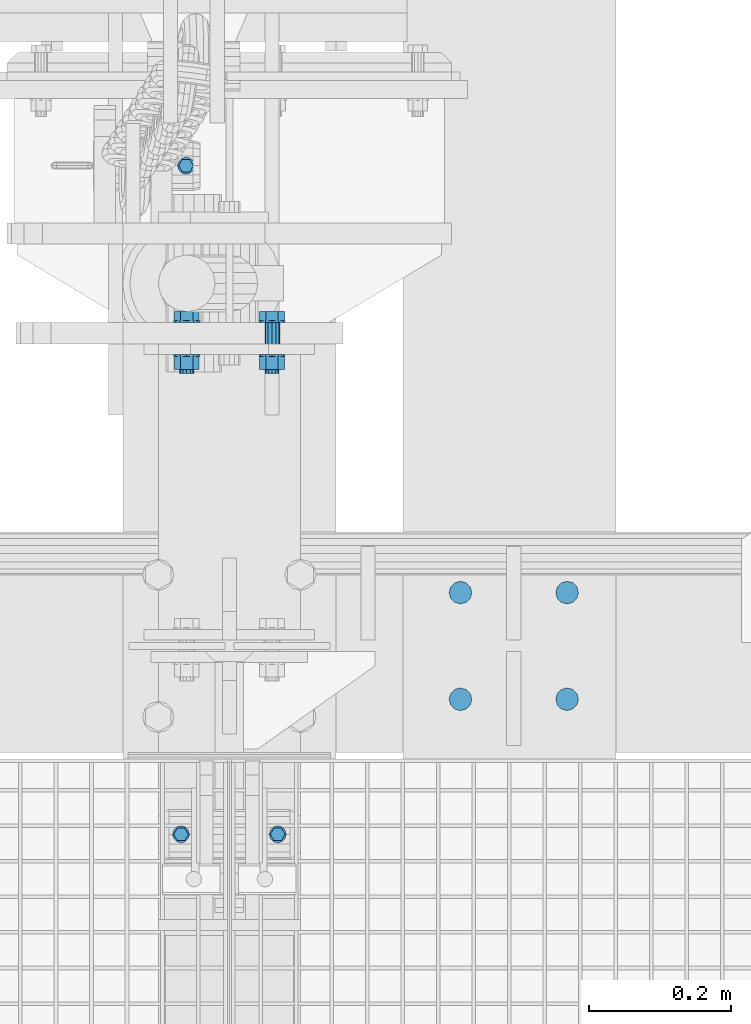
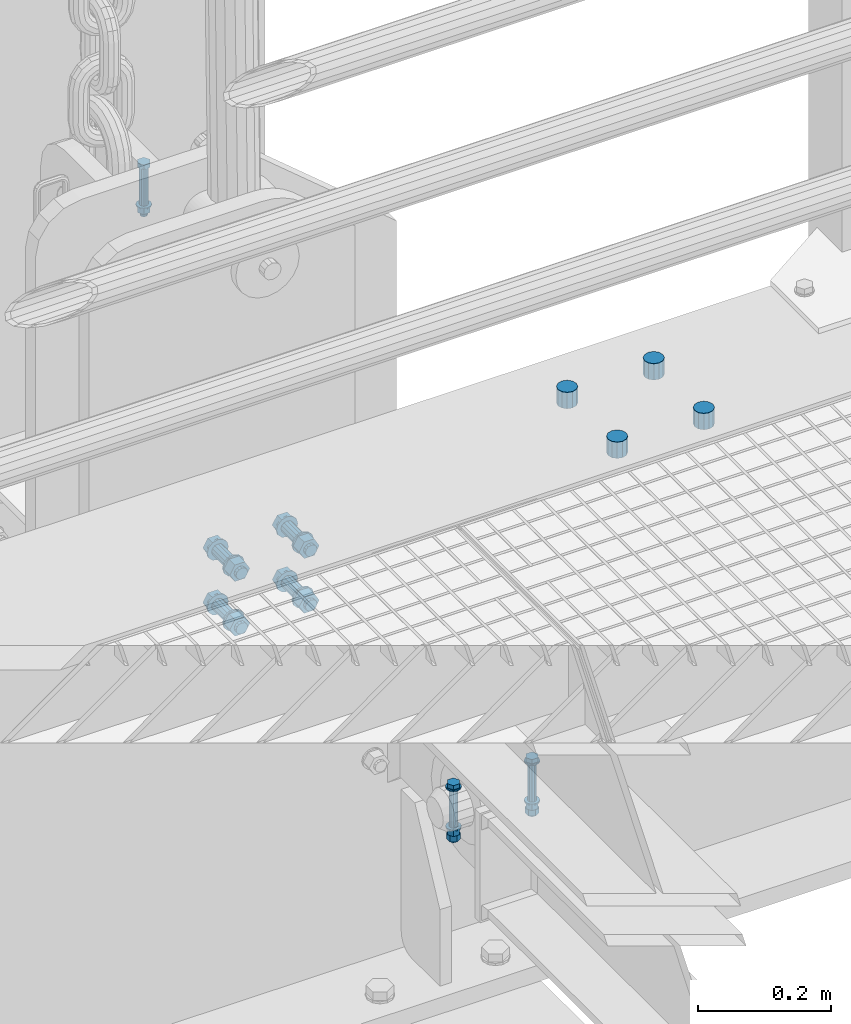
# One storey, part 46 of 1530: 4 mechanical fasteners.
"""IFC2X3 building model written with IfcOpenShell, lengths in millimetres."""

from ifc_helpers import new_model, si_unit, frame, origin_with_axes, place, context, subcontext, project, spatial, faceted_brep, source, transform, mapped, material, type_object, element, save


model = new_model("IFC2X3")

# Units and contexts
model_context = context("Model", 3, precision=1e-05, world=origin_with_axes())
body_context = subcontext(model_context, "Body", "Model", "MODEL_VIEW")
ifc_project = project(units=[si_unit("LENGTHUNIT", "METRE", prefix="MILLI"), si_unit("AREAUNIT", "SQUARE_METRE"), si_unit("VOLUMEUNIT", "CUBIC_METRE"), si_unit("MASSUNIT", "GRAM", prefix="KILO"), si_unit("TIMEUNIT", "SECOND"), si_unit("PLANEANGLEUNIT", "RADIAN"), si_unit("SOLIDANGLEUNIT", "STERADIAN"), si_unit("THERMODYNAMICTEMPERATUREUNIT", "DEGREE_CELSIUS"), si_unit("LUMINOUSINTENSITYUNIT", "LUMEN")], contexts=[model_context])

# Site, building, storey
site_placement = place(None, origin_with_axes())
site = spatial("IfcSite", under=ifc_project, at=site_placement, Name="Brattvåg", CompositionType="ELEMENT")
building_placement = place(site_placement, origin_with_axes())
building = spatial("IfcBuilding", under=site, at=building_placement, Name="Undefined", CompositionType="ELEMENT")
storey_placement = place(building_placement, origin_with_axes())
storey = spatial("IfcBuildingStorey", under=building, at=storey_placement, Name="Undefined", CompositionType="ELEMENT", Elevation=0.0)

# Mechanical fasteners
ifc_material = material(Name="8")
mechanical_fastener_type = type_object("IfcMechanicalFastenerType", Name="Bolt assembly")
shared_shape_1 = source(origin_with_axes(), body_context, "Body", "Brep", [
    faceted_brep([(10.3923048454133, -9.99999999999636, 0.0), (5.19615242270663, -9.99999999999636, 9.0), (-5.19615242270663, -9.99999999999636, 9.0), (-10.3923048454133, -9.99999999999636, 1.27269028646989e-15), (-5.19615242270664, -9.99999999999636, -9.0), (5.19615242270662, -9.99999999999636, -9.0), (5.19615242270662, -2.49999999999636, -9.0), (-5.19615242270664, -2.49999999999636, -9.0), (-10.3923048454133, -2.49999999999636, 1.27269028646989e-15), (-5.19615242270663, -2.49999999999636, 9.0), (5.19615242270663, -2.49999999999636, 9.0), (10.3923048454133, -2.49999999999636, 0.0), (6.0, -2.49999999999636, 0.0), (5.19615242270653, -2.49999999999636, 3.00000000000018), (2.99999999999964, -2.49999999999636, 5.19615242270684), (-6.21801588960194e-13, -2.49999999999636, 6.0), (-3.00000000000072, -2.49999999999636, 5.19615242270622), (-5.19615242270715, -2.49999999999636, 2.9999999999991), (-6.0, -2.49999999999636, -1.24360317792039e-12), (-5.19615242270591, -2.49999999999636, -3.00000000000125), (-2.99999999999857, -2.49999999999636, -5.19615242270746), (1.85874342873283e-12, -2.49999999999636, -6.0), (3.00000000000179, -2.49999999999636, -5.1961524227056), (5.19615242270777, -2.49999999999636, -2.99999999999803), (5.19615242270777, 97.4999999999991, -2.99999999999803), (3.00000000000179, 97.4999999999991, -5.1961524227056), (1.85874342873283e-12, 97.4999999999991, -6.0), (-2.99999999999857, 97.4999999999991, -5.19615242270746), (-5.19615242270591, 97.4999999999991, -3.00000000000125), (-6.0, 97.4999999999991, -1.24360317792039e-12), (-5.19615242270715, 97.4999999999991, 2.9999999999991), (-3.00000000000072, 97.4999999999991, 5.19615242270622), (-6.21801588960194e-13, 97.4999999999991, 6.0), (2.99999999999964, 97.4999999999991, 5.19615242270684), (5.19615242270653, 97.4999999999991, 3.00000000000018), (6.0, 97.4999999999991, 0.0), (12.0, -2.49999999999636, 0.0), (10.3923048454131, -2.49999999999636, 6.00000000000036), (5.99999999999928, -2.49999999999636, 10.3923048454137), (-1.24360317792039e-12, -2.49999999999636, 12.0), (-6.00000000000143, -2.49999999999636, 10.3923048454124), (-10.3923048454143, -2.49999999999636, 5.99999999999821), (-12.0, -2.49999999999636, -2.48720635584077e-12), (-10.3923048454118, -2.49999999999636, -6.00000000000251), (-5.99999999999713, -2.49999999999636, -10.3923048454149), (3.71748685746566e-12, -2.49999999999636, -12.0), (6.00000000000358, -2.49999999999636, -10.3923048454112), (10.3923048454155, -2.49999999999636, -5.99999999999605), (10.3923048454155, 3.63797880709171e-12, -5.99999999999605), (6.00000000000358, 3.63797880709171e-12, -10.3923048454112), (3.71748685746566e-12, 3.63797880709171e-12, -12.0), (-5.99999999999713, 3.63797880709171e-12, -10.3923048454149), (-10.3923048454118, 3.63797880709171e-12, -6.00000000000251), (-12.0, 3.63797880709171e-12, -2.48720635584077e-12), (-10.3923048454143, 3.63797880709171e-12, 5.99999999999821), (-6.00000000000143, 3.63797880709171e-12, 10.3923048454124), (-1.24360317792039e-12, 3.63797880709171e-12, 12.0), (5.99999999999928, 3.63797880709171e-12, 10.3923048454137), (10.3923048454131, 3.63797880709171e-12, 6.00000000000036), (12.0, 3.63797880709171e-12, 0.0), (12.0, 69.9999999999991, 0.0), (10.3923048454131, 69.9999999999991, 6.00000000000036), (5.99999999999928, 69.9999999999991, 10.3923048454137), (-1.24360317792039e-12, 69.9999999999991, 12.0), (-6.00000000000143, 69.9999999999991, 10.3923048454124), (-10.3923048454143, 69.9999999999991, 5.99999999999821), (-12.0, 69.9999999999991, -2.48720635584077e-12), (-10.3923048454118, 69.9999999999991, -6.00000000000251), (-5.99999999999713, 69.9999999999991, -10.3923048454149), (3.71748685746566e-12, 69.9999999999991, -12.0), (6.00000000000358, 69.9999999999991, -10.3923048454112), (10.3923048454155, 69.9999999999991, -5.99999999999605), (10.3923048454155, 72.4999999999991, -5.99999999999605), (6.00000000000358, 72.4999999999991, -10.3923048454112), (3.71748685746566e-12, 72.4999999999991, -12.0), (-5.99999999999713, 72.4999999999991, -10.3923048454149), (-10.3923048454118, 72.4999999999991, -6.00000000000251), (-12.0, 72.4999999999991, -2.48720635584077e-12), (-10.3923048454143, 72.4999999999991, 5.99999999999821), (-6.00000000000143, 72.4999999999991, 10.3923048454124), (-1.24360317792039e-12, 72.4999999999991, 12.0), (5.99999999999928, 72.4999999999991, 10.3923048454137), (10.3923048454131, 72.4999999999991, 6.00000000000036), (12.0, 72.4999999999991, 0.0), (10.3923048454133, 72.4999999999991, 0.0), (5.19615242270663, 72.4999999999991, 9.0), (-5.19615242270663, 72.4999999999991, 9.0), (-10.3923048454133, 72.4999999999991, 1.27269028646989e-15), (-5.19615242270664, 72.4999999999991, -9.0), (5.19615242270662, 72.4999999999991, -9.0), (5.19615242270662, 83.300000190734, -9.0), (-5.19615242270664, 83.300000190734, -9.0), (-10.3923048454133, 83.300000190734, 1.27269028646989e-15), (-5.19615242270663, 83.300000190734, 9.0), (5.19615242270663, 83.300000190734, 9.0), (10.3923048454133, 83.300000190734, 0.0), (9.0, 83.300000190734, 5.19615242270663), (6.36345143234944e-16, 83.300000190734, 10.3923048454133), (-9.0, 83.300000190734, 5.19615242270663), (-9.0, 83.300000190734, -5.19615242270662), (-1.11392563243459e-14, 83.300000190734, -10.3923048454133), (8.99999999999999, 83.300000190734, -5.19615242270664), (8.99999999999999, 94.1000003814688, -5.19615242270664), (-1.11392563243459e-14, 94.1000003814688, -10.3923048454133), (-9.0, 94.1000003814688, -5.19615242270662), (-9.0, 94.1000003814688, 5.19615242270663), (6.36345143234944e-16, 94.1000003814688, 10.3923048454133), (9.0, 94.1000003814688, 5.19615242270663)], [[[0, 1, 2, 3, 4, 5]], [[6, 7, 8, 9, 10, 11]], [[0, 11, 10, 1]], [[1, 10, 9, 2]], [[2, 9, 8, 3]], [[3, 8, 7, 4]], [[4, 7, 6, 5]], [[5, 6, 11, 0]], [[12, 13, 14, 15, 16, 17, 18, 19, 20, 21, 22, 23]], [[24, 25, 26, 27, 28, 29, 30, 31, 32, 33, 34, 35]], [[12, 35, 34, 13]], [[13, 34, 33, 14]], [[14, 33, 32, 15]], [[15, 32, 31, 16]], [[16, 31, 30, 17]], [[17, 30, 29, 18]], [[18, 29, 28, 19]], [[19, 28, 27, 20]], [[20, 27, 26, 21]], [[21, 26, 25, 22]], [[22, 25, 24, 23]], [[23, 24, 35, 12]], [[36, 37, 38, 39, 40, 41, 42, 43, 44, 45, 46, 47]], [[48, 49, 50, 51, 52, 53, 54, 55, 56, 57, 58, 59]], [[36, 59, 58, 37]], [[37, 58, 57, 38]], [[38, 57, 56, 39]], [[39, 56, 55, 40]], [[40, 55, 54, 41]], [[41, 54, 53, 42]], [[42, 53, 52, 43]], [[43, 52, 51, 44]], [[44, 51, 50, 45]], [[45, 50, 49, 46]], [[46, 49, 48, 47]], [[47, 48, 59, 36]], [[60, 61, 62, 63, 64, 65, 66, 67, 68, 69, 70, 71]], [[72, 73, 74, 75, 76, 77, 78, 79, 80, 81, 82, 83]], [[60, 83, 82, 61]], [[61, 82, 81, 62]], [[62, 81, 80, 63]], [[63, 80, 79, 64]], [[64, 79, 78, 65]], [[65, 78, 77, 66]], [[66, 77, 76, 67]], [[67, 76, 75, 68]], [[68, 75, 74, 69]], [[69, 74, 73, 70]], [[70, 73, 72, 71]], [[71, 72, 83, 60]], [[84, 85, 86, 87, 88, 89]], [[90, 91, 92, 93, 94, 95]], [[84, 95, 94, 85]], [[85, 94, 93, 86]], [[86, 93, 92, 87]], [[87, 92, 91, 88]], [[88, 91, 90, 89]], [[89, 90, 95, 84]], [[96, 97, 98, 99, 100, 101]], [[102, 103, 104, 105, 106, 107]], [[96, 107, 106, 97]], [[97, 106, 105, 98]], [[98, 105, 104, 99]], [[99, 104, 103, 100]], [[100, 103, 102, 101]], [[101, 102, 107, 96]]]),
    faceted_brep([(7.0, -9.09494701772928e-13, 0.0), (6.06217782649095, -9.09494701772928e-13, 3.50000000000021), (3.49999999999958, -9.09494701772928e-13, 6.06217782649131), (-7.25435187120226e-13, -9.09494701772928e-13, 7.0), (-3.50000000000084, -9.09494701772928e-13, 6.06217782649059), (-6.06217782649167, -9.09494701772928e-13, 3.49999999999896), (-7.0, -9.09494701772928e-13, -1.45087037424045e-12), (-6.06217782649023, -9.09494701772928e-13, -3.50000000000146), (-3.49999999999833, -9.09494701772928e-13, -6.06217782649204), (2.1685340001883e-12, -9.09494701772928e-13, -7.0), (3.50000000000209, -9.09494701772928e-13, -6.06217782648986), (6.0621778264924, -9.09494701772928e-13, -3.4999999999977), (6.0621778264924, 70.0999999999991, -3.4999999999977), (3.50000000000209, 70.0999999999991, -6.06217782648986), (2.1685340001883e-12, 70.0999999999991, -7.0), (-3.49999999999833, 70.0999999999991, -6.06217782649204), (-6.06217782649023, 70.0999999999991, -3.50000000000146), (-7.0, 70.0999999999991, -1.45087037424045e-12), (-6.06217782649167, 70.0999999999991, 3.49999999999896), (-3.50000000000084, 70.0999999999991, 6.06217782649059), (-7.25435187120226e-13, 70.0999999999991, 7.0), (3.49999999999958, 70.0999999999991, 6.06217782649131), (6.06217782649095, 70.0999999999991, 3.50000000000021), (7.0, 70.0999999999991, 0.0)], [[[0, 1, 2, 3, 4, 5, 6, 7, 8, 9, 10, 11]], [[12, 13, 14, 15, 16, 17, 18, 19, 20, 21, 22, 23]], [[0, 23, 22, 1]], [[1, 22, 21, 2]], [[2, 21, 20, 3]], [[3, 20, 19, 4]], [[4, 19, 18, 5]], [[5, 18, 17, 6]], [[6, 17, 16, 7]], [[7, 16, 15, 8]], [[8, 15, 14, 9]], [[9, 14, 13, 10]], [[10, 13, 12, 11]], [[11, 12, 23, 0]]]),
])
mechanical_fastener_1_placement = place(storey_placement, frame((12181.9533857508, 8735.00000037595, -390.000000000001), z_axis=(0.0, 1.0, 0.0), x_axis=(1.0, 0.0, 0.0)))
element("IfcMechanicalFastener", 1, at=mechanical_fastener_1_placement, inside=storey, type_object=mechanical_fastener_type, material=ifc_material, Name="Bolt assembly", NominalDiameter=12.0, NominalLength=100.0, context=body_context, shape_type="MappedRepresentation", body=[
    mapped(shared_shape_1, transform((0.0, 0.0, 0.0))),
    mapped(shared_shape_1, transform((136.0, 0.0, 0.0))),
])
shared_shape_2 = source(origin_with_axes(), body_context, "Body", "Brep", [
    faceted_brep([(16.0, 0.0, 0.0), (13.8564064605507, 0.0, 8.00000000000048), (7.99999999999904, 0.0, 13.8564064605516), (-1.65813757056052e-12, 0.0, 16.0), (-8.00000000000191, 0.0, 13.8564064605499), (-13.8564064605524, 0.0, 7.99999999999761), (-16.0, 0.0, -3.31627514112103e-12), (-13.8564064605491, 0.0, -8.00000000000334), (-7.99999999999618, 0.0, -13.8564064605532), (4.95664914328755e-12, 0.0, -16.0), (8.00000000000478, 0.0, -13.8564064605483), (13.8564064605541, 0.0, -7.99999999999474), (13.8564064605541, 30.1, -7.99999999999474), (8.00000000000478, 30.1, -13.8564064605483), (4.95664914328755e-12, 30.1, -16.0), (-7.99999999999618, 30.1, -13.8564064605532), (-13.8564064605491, 30.1, -8.00000000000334), (-16.0, 30.1, -3.31627514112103e-12), (-13.8564064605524, 30.1, 7.99999999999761), (-8.00000000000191, 30.1, 13.8564064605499), (-1.65813757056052e-12, 30.1, 16.0), (7.99999999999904, 30.1, 13.8564064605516), (13.8564064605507, 30.1, 8.00000000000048), (16.0, 30.1, 0.0)], [[[0, 1, 2, 3, 4, 5, 6, 7, 8, 9, 10, 11]], [[12, 13, 14, 15, 16, 17, 18, 19, 20, 21, 22, 23]], [[0, 23, 22, 1]], [[1, 22, 21, 2]], [[2, 21, 20, 3]], [[3, 20, 19, 4]], [[4, 19, 18, 5]], [[5, 18, 17, 6]], [[6, 17, 16, 7]], [[7, 16, 15, 8]], [[8, 15, 14, 9]], [[9, 14, 13, 10]], [[10, 13, 12, 11]], [[11, 12, 23, 0]]]),
])
mechanical_fastener_2_placement = place(storey_placement, frame((12725.0, 9000.0, 0.0), z_axis=(0.0, -1.0, 0.0), x_axis=(-1.0, 1.99999855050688e-09, 0.0)))
element("IfcMechanicalFastener", 2, at=mechanical_fastener_2_placement, inside=storey, type_object=mechanical_fastener_type, material=ifc_material, Name="Bolt assembly", NominalDiameter=30.0, NominalLength=30.0, context=body_context, shape_type="MappedRepresentation", body=[
    mapped(shared_shape_2, transform((0.0, 0.0, -75.0))),
    mapped(shared_shape_2, transform((150.0, 0.0, -75.0))),
    mapped(shared_shape_2, transform((0.0, 0.0, 75.0))),
    mapped(shared_shape_2, transform((150.0, 0.0, 75.0))),
])
shared_shape_3 = source(origin_with_axes(), body_context, "Body", "Brep", [
    faceted_brep([(10.3923048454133, -7.92069730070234, 0.0), (5.19615242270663, -7.92069730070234, 9.0), (-5.19615242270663, -7.92069730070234, 9.0), (-10.3923048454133, -7.92069730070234, 1.27269028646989e-15), (-5.19615242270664, -7.92069730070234, -9.0), (5.19615242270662, -7.92069730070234, -9.0), (5.19615242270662, -0.000697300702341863, -9.0), (-5.19615242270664, -0.000697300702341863, -9.0), (-10.3923048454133, -0.000697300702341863, 1.27269028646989e-15), (-5.19615242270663, -0.000697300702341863, 9.0), (5.19615242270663, -0.000697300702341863, 9.0), (10.3923048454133, -0.000697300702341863, 0.0), (6.0, -0.000697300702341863, 0.0), (5.19615242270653, -0.000697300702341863, 3.00000000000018), (2.99999999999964, -0.000697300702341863, 5.19615242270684), (-6.21801588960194e-13, -0.000697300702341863, 6.0), (-3.00000000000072, -0.000697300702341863, 5.19615242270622), (-5.19615242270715, -0.000697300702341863, 2.9999999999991), (-6.0, -0.000697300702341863, -1.24360317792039e-12), (-5.19615242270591, -0.000697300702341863, -3.00000000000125), (-2.99999999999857, -0.000697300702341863, -5.19615242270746), (1.85874342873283e-12, -0.000697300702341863, -6.0), (3.00000000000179, -0.000697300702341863, -5.1961524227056), (5.19615242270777, -0.000697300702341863, -2.99999999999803), (5.19615242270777, 89.9993026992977, -2.99999999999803), (3.00000000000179, 89.9993026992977, -5.1961524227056), (1.85874342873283e-12, 89.9993026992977, -6.0), (-2.99999999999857, 89.9993026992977, -5.19615242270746), (-5.19615242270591, 89.9993026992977, -3.00000000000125), (-6.0, 89.9993026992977, -1.24360317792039e-12), (-5.19615242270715, 89.9993026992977, 2.9999999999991), (-3.00000000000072, 89.9993026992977, 5.19615242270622), (-6.21801588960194e-13, 89.9993026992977, 6.0), (2.99999999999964, 89.9993026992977, 5.19615242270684), (5.19615242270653, 89.9993026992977, 3.00000000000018), (6.0, 89.9993026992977, 0.0), (12.0, 69.9990430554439, 0.0), (10.3923048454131, 69.9990430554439, 6.00000000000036), (5.99999999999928, 69.9990430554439, 10.3923048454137), (-1.24360317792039e-12, 69.9990430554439, 12.0), (-6.00000000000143, 69.9990430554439, 10.3923048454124), (-10.3923048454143, 69.9990430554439, 5.99999999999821), (-12.0, 69.9990430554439, -2.48720635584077e-12), (-10.3923048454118, 69.9990430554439, -6.00000000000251), (-5.99999999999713, 69.9990430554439, -10.3923048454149), (3.71748685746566e-12, 69.9990430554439, -12.0), (6.00000000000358, 69.9990430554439, -10.3923048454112), (10.3923048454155, 69.9990430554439, -5.99999999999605), (10.3923048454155, 72.4990430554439, -5.99999999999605), (6.00000000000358, 72.4990430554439, -10.3923048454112), (3.71748685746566e-12, 72.4990430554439, -12.0), (-5.99999999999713, 72.4990430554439, -10.3923048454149), (-10.3923048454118, 72.4990430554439, -6.00000000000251), (-12.0, 72.4990430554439, -2.48720635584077e-12), (-10.3923048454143, 72.4990430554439, 5.99999999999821), (-6.00000000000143, 72.4990430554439, 10.3923048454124), (-1.24360317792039e-12, 72.4990430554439, 12.0), (5.99999999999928, 72.4990430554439, 10.3923048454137), (10.3923048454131, 72.4990430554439, 6.00000000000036), (12.0, 72.4990430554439, 0.0), (10.9696551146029, 72.4990430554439, 0.0), (5.48482755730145, 72.4990430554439, 9.5), (-5.48482755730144, 72.4990430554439, 9.5), (-10.9696551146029, 72.4990430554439, 1.34339530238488e-15), (-5.48482755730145, 72.4990430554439, -9.5), (5.48482755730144, 72.4990430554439, -9.5), (5.48482755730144, 82.4990430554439, -9.5), (-5.48482755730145, 82.4990430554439, -9.5), (-10.9696551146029, 82.4990430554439, 1.34339530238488e-15), (-5.48482755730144, 82.4990430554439, 9.5), (5.48482755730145, 82.4990430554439, 9.5), (10.9696551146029, 82.4990430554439, 0.0)], [[[0, 1, 2, 3, 4, 5]], [[6, 7, 8, 9, 10, 11]], [[0, 11, 10, 1]], [[1, 10, 9, 2]], [[2, 9, 8, 3]], [[3, 8, 7, 4]], [[4, 7, 6, 5]], [[5, 6, 11, 0]], [[12, 13, 14, 15, 16, 17, 18, 19, 20, 21, 22, 23]], [[24, 25, 26, 27, 28, 29, 30, 31, 32, 33, 34, 35]], [[12, 35, 34, 13]], [[13, 34, 33, 14]], [[14, 33, 32, 15]], [[15, 32, 31, 16]], [[16, 31, 30, 17]], [[17, 30, 29, 18]], [[18, 29, 28, 19]], [[19, 28, 27, 20]], [[20, 27, 26, 21]], [[21, 26, 25, 22]], [[22, 25, 24, 23]], [[23, 24, 35, 12]], [[36, 37, 38, 39, 40, 41, 42, 43, 44, 45, 46, 47]], [[48, 49, 50, 51, 52, 53, 54, 55, 56, 57, 58, 59]], [[36, 59, 58, 37]], [[37, 58, 57, 38]], [[38, 57, 56, 39]], [[39, 56, 55, 40]], [[40, 55, 54, 41]], [[41, 54, 53, 42]], [[42, 53, 52, 43]], [[43, 52, 51, 44]], [[44, 51, 50, 45]], [[45, 50, 49, 46]], [[46, 49, 48, 47]], [[47, 48, 59, 36]], [[60, 61, 62, 63, 64, 65]], [[66, 67, 68, 69, 70, 71]], [[60, 71, 70, 61]], [[61, 70, 69, 62]], [[62, 69, 68, 63]], [[63, 68, 67, 64]], [[64, 67, 66, 65]], [[65, 66, 71, 60]]]),
    faceted_brep([(7.0, -0.000697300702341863, 0.0), (6.06217782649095, -0.000697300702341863, 3.50000000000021), (3.49999999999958, -0.000697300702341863, 6.06217782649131), (-7.25435187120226e-13, -0.000697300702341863, 7.0), (-3.50000000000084, -0.000697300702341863, 6.06217782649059), (-6.06217782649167, -0.000697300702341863, 3.49999999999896), (-7.0, -0.000697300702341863, -1.45087037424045e-12), (-6.06217782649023, -0.000697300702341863, -3.50000000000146), (-3.49999999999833, -0.000697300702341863, -6.06217782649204), (2.1685340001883e-12, -0.000697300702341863, -7.0), (3.50000000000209, -0.000697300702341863, -6.06217782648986), (6.0621778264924, -0.000697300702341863, -3.4999999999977), (6.0621778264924, 70.0990430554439, -3.4999999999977), (3.50000000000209, 70.0990430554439, -6.06217782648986), (2.1685340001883e-12, 70.0990430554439, -7.0), (-3.49999999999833, 70.0990430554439, -6.06217782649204), (-6.06217782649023, 70.0990430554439, -3.50000000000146), (-7.0, 70.0990430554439, -1.45087037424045e-12), (-6.06217782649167, 70.0990430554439, 3.49999999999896), (-3.50000000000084, 70.0990430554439, 6.06217782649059), (-7.25435187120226e-13, 70.0990430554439, 7.0), (3.49999999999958, 70.0990430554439, 6.06217782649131), (6.06217782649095, 70.0990430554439, 3.50000000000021), (7.0, 70.0990430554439, 0.0)], [[[0, 1, 2, 3, 4, 5, 6, 7, 8, 9, 10, 11]], [[12, 13, 14, 15, 16, 17, 18, 19, 20, 21, 22, 23]], [[0, 23, 22, 1]], [[1, 22, 21, 2]], [[2, 21, 20, 3]], [[3, 20, 19, 4]], [[4, 19, 18, 5]], [[5, 18, 17, 6]], [[6, 17, 16, 7]], [[7, 16, 15, 8]], [[8, 15, 14, 9]], [[9, 14, 13, 10]], [[10, 13, 12, 11]], [[11, 12, 23, 0]]]),
])
mechanical_fastener_3_placement = place(storey_placement, frame((12188.9950409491, 9675.49110680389, 174.9991765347), z_axis=(6.53460002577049e-05, -0.99999999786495, 2.8421709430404e-17), x_axis=(-0.999999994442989, -6.53460000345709e-05, -8.27280000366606e-05)))
element("IfcMechanicalFastener", 3, at=mechanical_fastener_3_placement, inside=storey, type_object=mechanical_fastener_type, material=ifc_material, Name="Bolt assembly", NominalDiameter=12.0, NominalLength=90.0, context=body_context, shape_type="MappedRepresentation", body=[
    mapped(shared_shape_3, transform((0.0, 0.0, 0.0))),
])
shared_shape_4 = source(origin_with_axes(), body_context, "Body", "Brep", [
    faceted_brep([(17.3205080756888, -45.4981880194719, 0.0), (8.66025403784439, -45.4981880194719, 15.0), (-8.66025403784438, -45.4981880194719, 15.0), (-17.3205080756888, -45.4981880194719, 2.12115047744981e-15), (-8.66025403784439, -45.4981880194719, -15.0), (8.66025403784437, -45.4981880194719, -15.0), (8.66025403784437, -32.9981880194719, -15.0), (-8.66025403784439, -32.9981880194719, -15.0), (-17.3205080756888, -32.9981880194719, 2.12115047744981e-15), (-8.66025403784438, -32.9981880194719, 15.0), (8.66025403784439, -32.9981880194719, 15.0), (17.3205080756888, -32.9981880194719, 0.0), (10.0, -32.9981880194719, 0.0), (8.66025403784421, -32.9981880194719, 5.0000000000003), (4.9999999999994, -32.9981880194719, 8.66025403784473), (-1.03633598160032e-12, -32.9981880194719, 10.0), (-5.00000000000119, -32.9981880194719, 8.6602540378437), (-8.66025403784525, -32.9981880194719, 4.99999999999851), (-10.0, -32.9981880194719, -2.07267196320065e-12), (-8.66025403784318, -32.9981880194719, -5.00000000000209), (-4.99999999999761, -32.9981880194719, -8.66025403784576), (3.09790571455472e-12, -32.9981880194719, -10.0), (5.00000000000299, -32.9981880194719, -8.66025403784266), (8.66025403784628, -32.9981880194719, -4.99999999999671), (8.66025403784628, 42.0018119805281, -4.99999999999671), (5.00000000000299, 42.0018119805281, -8.66025403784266), (3.09790571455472e-12, 42.0018119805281, -10.0), (-4.99999999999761, 42.0018119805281, -8.66025403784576), (-8.66025403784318, 42.0018119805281, -5.00000000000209), (-10.0, 42.0018119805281, -2.07267196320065e-12), (-8.66025403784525, 42.0018119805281, 4.99999999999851), (-5.00000000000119, 42.0018119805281, 8.6602540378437), (-1.03633598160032e-12, 42.0018119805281, 10.0), (4.9999999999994, 42.0018119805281, 8.66025403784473), (8.66025403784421, 42.0018119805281, 5.0000000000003), (10.0, 42.0018119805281, 0.0), (18.5, -32.9981880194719, 0.0), (16.0214699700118, -32.9981880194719, 9.25000000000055), (9.2499999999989, -32.9981880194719, 16.0214699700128), (-1.9172215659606e-12, -32.9981880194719, 18.5), (-9.25000000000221, -32.9981880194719, 16.0214699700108), (-16.0214699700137, -32.9981880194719, 9.24999999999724), (-18.5, -32.9981880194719, -3.83444313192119e-12), (-16.0214699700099, -32.9981880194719, -9.25000000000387), (-9.24999999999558, -32.9981880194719, -16.0214699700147), (5.73112557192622e-12, -32.9981880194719, -18.5), (9.25000000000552, -32.9981880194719, -16.0214699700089), (16.0214699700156, -32.9981880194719, -9.24999999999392), (16.0214699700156, -29.9981880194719, -9.24999999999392), (9.25000000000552, -29.9981880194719, -16.0214699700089), (5.73112557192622e-12, -29.9981880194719, -18.5), (-9.24999999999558, -29.9981880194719, -16.0214699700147), (-16.0214699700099, -29.9981880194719, -9.25000000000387), (-18.5, -29.9981880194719, -3.83444313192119e-12), (-16.0214699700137, -29.9981880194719, 9.24999999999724), (-9.25000000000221, -29.9981880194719, 16.0214699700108), (-1.9172215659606e-12, -29.9981880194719, 18.5), (9.2499999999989, -29.9981880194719, 16.0214699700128), (16.0214699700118, -29.9981880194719, 9.25000000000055), (18.5, -29.9981880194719, 0.0), (18.5, 15.0000000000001, 0.0), (16.0214699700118, 15.0000000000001, 9.25000000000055), (9.2499999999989, 15.0000000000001, 16.0214699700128), (-1.9172215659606e-12, 15.0000000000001, 18.5), (-9.25000000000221, 15.0000000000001, 16.0214699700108), (-16.0214699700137, 15.0000000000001, 9.24999999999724), (-18.5, 15.0000000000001, -3.83444313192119e-12), (-16.0214699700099, 15.0000000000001, -9.25000000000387), (-9.24999999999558, 15.0000000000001, -16.0214699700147), (5.73112557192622e-12, 15.0000000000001, -18.5), (9.25000000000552, 15.0000000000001, -16.0214699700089), (16.0214699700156, 15.0000000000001, -9.24999999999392), (16.0214699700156, 18.0000000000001, -9.24999999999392), (9.25000000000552, 18.0000000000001, -16.0214699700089), (5.73112557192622e-12, 18.0000000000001, -18.5), (-9.24999999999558, 18.0000000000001, -16.0214699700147), (-16.0214699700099, 18.0000000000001, -9.25000000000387), (-18.5, 18.0000000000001, -3.83444313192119e-12), (-16.0214699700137, 18.0000000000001, 9.24999999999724), (-9.25000000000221, 18.0000000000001, 16.0214699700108), (-1.9172215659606e-12, 18.0000000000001, 18.5), (9.2499999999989, 18.0000000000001, 16.0214699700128), (16.0214699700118, 18.0000000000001, 9.25000000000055), (18.5, 18.0000000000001, 0.0), (17.3205080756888, 18.0000000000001, 0.0), (8.66025403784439, 18.0000000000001, 15.0), (-8.66025403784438, 18.0000000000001, 15.0), (-17.3205080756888, 18.0000000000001, 2.12115047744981e-15), (-8.66025403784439, 18.0000000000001, -15.0), (8.66025403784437, 18.0000000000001, -15.0), (8.66025403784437, 36.0000000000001, -15.0), (-8.66025403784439, 36.0000000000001, -15.0), (-17.3205080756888, 36.0000000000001, 2.12115047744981e-15), (-8.66025403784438, 36.0000000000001, 15.0), (8.66025403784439, 36.0000000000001, 15.0), (17.3205080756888, 36.0000000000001, 0.0)], [[[0, 1, 2, 3, 4, 5]], [[6, 7, 8, 9, 10, 11]], [[0, 11, 10, 1]], [[1, 10, 9, 2]], [[2, 9, 8, 3]], [[3, 8, 7, 4]], [[4, 7, 6, 5]], [[5, 6, 11, 0]], [[12, 13, 14, 15, 16, 17, 18, 19, 20, 21, 22, 23]], [[24, 25, 26, 27, 28, 29, 30, 31, 32, 33, 34, 35]], [[12, 35, 34, 13]], [[13, 34, 33, 14]], [[14, 33, 32, 15]], [[15, 32, 31, 16]], [[16, 31, 30, 17]], [[17, 30, 29, 18]], [[18, 29, 28, 19]], [[19, 28, 27, 20]], [[20, 27, 26, 21]], [[21, 26, 25, 22]], [[22, 25, 24, 23]], [[23, 24, 35, 12]], [[36, 37, 38, 39, 40, 41, 42, 43, 44, 45, 46, 47]], [[48, 49, 50, 51, 52, 53, 54, 55, 56, 57, 58, 59]], [[36, 59, 58, 37]], [[37, 58, 57, 38]], [[38, 57, 56, 39]], [[39, 56, 55, 40]], [[40, 55, 54, 41]], [[41, 54, 53, 42]], [[42, 53, 52, 43]], [[43, 52, 51, 44]], [[44, 51, 50, 45]], [[45, 50, 49, 46]], [[46, 49, 48, 47]], [[47, 48, 59, 36]], [[60, 61, 62, 63, 64, 65, 66, 67, 68, 69, 70, 71]], [[72, 73, 74, 75, 76, 77, 78, 79, 80, 81, 82, 83]], [[60, 83, 82, 61]], [[61, 82, 81, 62]], [[62, 81, 80, 63]], [[63, 80, 79, 64]], [[64, 79, 78, 65]], [[65, 78, 77, 66]], [[66, 77, 76, 67]], [[67, 76, 75, 68]], [[68, 75, 74, 69]], [[69, 74, 73, 70]], [[70, 73, 72, 71]], [[71, 72, 83, 60]], [[84, 85, 86, 87, 88, 89]], [[90, 91, 92, 93, 94, 95]], [[84, 95, 94, 85]], [[85, 94, 93, 86]], [[86, 93, 92, 87]], [[87, 92, 91, 88]], [[88, 91, 90, 89]], [[89, 90, 95, 84]]]),
    faceted_brep([(11.0, -29.8981880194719, 0.0), (9.52627944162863, -29.8981880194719, 5.50000000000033), (5.49999999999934, -29.8981880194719, 9.5262794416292), (-1.13996957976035e-12, -29.8981880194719, 11.0), (-5.50000000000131, -29.8981880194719, 9.52627944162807), (-9.52627944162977, -29.8981880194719, 5.49999999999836), (-11.0, -29.8981880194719, -2.27993915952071e-12), (-9.5262794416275, -29.8981880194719, -5.5000000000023), (-5.49999999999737, -29.8981880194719, -9.52627944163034), (3.40769628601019e-12, -29.8981880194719, -11.0), (5.50000000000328, -29.8981880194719, -9.52627944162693), (9.52627944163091, -29.8981880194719, -5.49999999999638), (9.52627944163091, 0.101811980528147, -5.49999999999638), (5.50000000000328, 0.101811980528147, -9.52627944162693), (3.40769628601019e-12, 0.101811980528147, -11.0), (-5.49999999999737, 0.101811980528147, -9.52627944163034), (-9.5262794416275, 0.101811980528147, -5.5000000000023), (-11.0, 0.101811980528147, -2.27993915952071e-12), (-9.52627944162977, 0.101811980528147, 5.49999999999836), (-5.50000000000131, 0.101811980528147, 9.52627944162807), (-1.13996957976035e-12, 0.101811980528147, 11.0), (5.49999999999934, 0.101811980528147, 9.5262794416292), (9.52627944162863, 0.101811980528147, 5.50000000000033), (11.0, 0.101811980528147, 0.0), (11.0, -0.1, 0.0), (9.52627944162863, -0.1, 5.50000000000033), (5.49999999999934, -0.1, 9.5262794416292), (-1.13996957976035e-12, -0.1, 11.0), (-5.50000000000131, -0.1, 9.52627944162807), (-9.52627944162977, -0.1, 5.49999999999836), (-11.0, -0.1, -2.27993915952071e-12), (-9.5262794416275, -0.1, -5.5000000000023), (-5.49999999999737, -0.1, -9.52627944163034), (3.40769628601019e-12, -0.1, -11.0), (5.50000000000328, -0.1, -9.52627944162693), (9.52627944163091, -0.1, -5.49999999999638), (9.52627944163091, 15.0000000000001, -5.49999999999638), (5.50000000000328, 15.0000000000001, -9.52627944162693), (3.40769628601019e-12, 15.0000000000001, -11.0), (-5.49999999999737, 15.0000000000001, -9.52627944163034), (-9.5262794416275, 15.0000000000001, -5.5000000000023), (-11.0, 15.0000000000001, -2.27993915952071e-12), (-9.52627944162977, 15.0000000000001, 5.49999999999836), (-5.50000000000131, 15.0000000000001, 9.52627944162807), (-1.13996957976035e-12, 15.0000000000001, 11.0), (5.49999999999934, 15.0000000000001, 9.5262794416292), (9.52627944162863, 15.0000000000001, 5.50000000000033), (11.0, 15.0000000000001, 0.0)], [[[0, 1, 2, 3, 4, 5, 6, 7, 8, 9, 10, 11]], [[12, 13, 14, 15, 16, 17, 18, 19, 20, 21, 22, 23]], [[0, 23, 22, 1]], [[1, 22, 21, 2]], [[2, 21, 20, 3]], [[3, 20, 19, 4]], [[4, 19, 18, 5]], [[5, 18, 17, 6]], [[6, 17, 16, 7]], [[7, 16, 15, 8]], [[8, 15, 14, 9]], [[9, 14, 13, 10]], [[10, 13, 12, 11]], [[11, 12, 23, 0]], [[24, 25, 26, 27, 28, 29, 30, 31, 32, 33, 34, 35]], [[36, 37, 38, 39, 40, 41, 42, 43, 44, 45, 46, 47]], [[24, 47, 46, 25]], [[25, 46, 45, 26]], [[26, 45, 44, 27]], [[27, 44, 43, 28]], [[28, 43, 42, 29]], [[29, 42, 41, 30]], [[30, 41, 40, 31]], [[31, 40, 39, 32]], [[32, 39, 38, 33]], [[33, 38, 37, 34]], [[34, 37, 36, 35]], [[35, 36, 47, 24]]]),
])
mechanical_fastener_4_placement = place(storey_placement, frame((12310.0019683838, 9425.00149536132, -444.998836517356), z_axis=(0.0, 0.0, 1.0), x_axis=(-1.0, 1.99999855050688e-09, 0.0)))
element("IfcMechanicalFastener", 4, at=mechanical_fastener_4_placement, inside=storey, type_object=mechanical_fastener_type, material=ifc_material, Name="Bolt assembly", NominalDiameter=20.0, NominalLength=75.0, context=body_context, shape_type="MappedRepresentation", body=[
    mapped(shared_shape_4, transform((0.0, 0.0, -50.0))),
    mapped(shared_shape_4, transform((120.0, 0.0, -50.0))),
    mapped(shared_shape_4, transform((0.0, 0.0, 50.0))),
    mapped(shared_shape_4, transform((120.0, 0.0, 50.0))),
])

save(model, "model.ifc")
